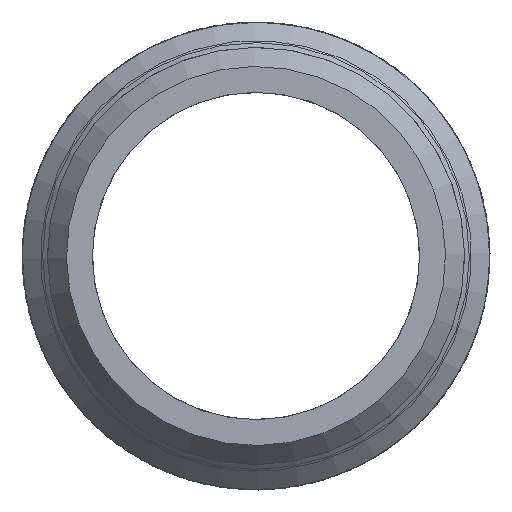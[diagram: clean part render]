
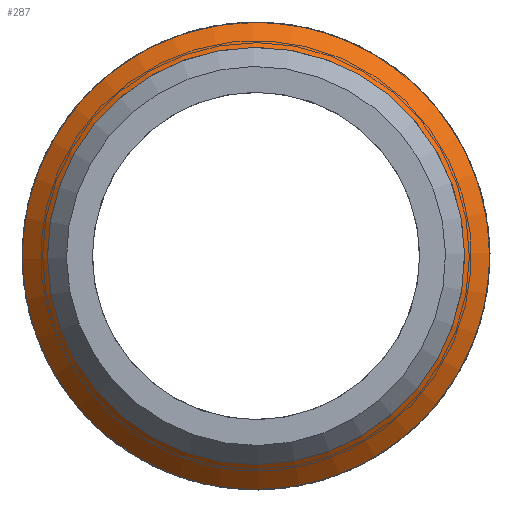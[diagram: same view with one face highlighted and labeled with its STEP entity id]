
A CAD part, front view. The second image highlights one B-rep face of the part: STEP entity #287.
In plain terms, the highlighted conical face has half-angle 45 degrees and reference radius 14.148 mm.
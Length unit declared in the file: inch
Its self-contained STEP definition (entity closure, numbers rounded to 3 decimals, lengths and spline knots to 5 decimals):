
#38=FACE_BOUND('',#87,.T.);
#62=FACE_OUTER_BOUND('',#86,.T.);
#86=EDGE_LOOP('',(#206));
#87=EDGE_LOOP('',(#207));
#134=CIRCLE('',#318,0.525);
#135=CIRCLE('',#319,0.589);
#158=VERTEX_POINT('',#465);
#159=VERTEX_POINT('',#467);
#182=EDGE_CURVE('',#158,#158,#134,.T.);
#183=EDGE_CURVE('',#159,#159,#135,.T.);
#206=ORIENTED_EDGE('',*,*,#182,.F.);
#207=ORIENTED_EDGE('',*,*,#183,.F.);
#254=CONICAL_SURFACE('',#317,0.557,45.);
#287=ADVANCED_FACE('',(#62,#38),#254,.T.);
#317=AXIS2_PLACEMENT_3D('',#464,#367,#368);
#318=AXIS2_PLACEMENT_3D('',#466,#369,#370);
#319=AXIS2_PLACEMENT_3D('',#468,#371,#372);
#367=DIRECTION('center_axis',(0.,1.,0.));
#368=DIRECTION('ref_axis',(-0.186,0.,0.983));
#369=DIRECTION('center_axis',(0.,-1.,0.));
#370=DIRECTION('ref_axis',(0.186,0.,-0.983));
#371=DIRECTION('center_axis',(0.,1.,0.));
#372=DIRECTION('ref_axis',(0.983,0.,0.186));
#464=CARTESIAN_POINT('Origin',(0.,0.5305,0.));
#465=CARTESIAN_POINT('',(-0.09739,0.4985,0.51589));
#466=CARTESIAN_POINT('Origin',(0.,0.4985,0.));
#467=CARTESIAN_POINT('',(-0.10926,0.5625,0.57878));
#468=CARTESIAN_POINT('Origin',(0.,0.5625,0.));
